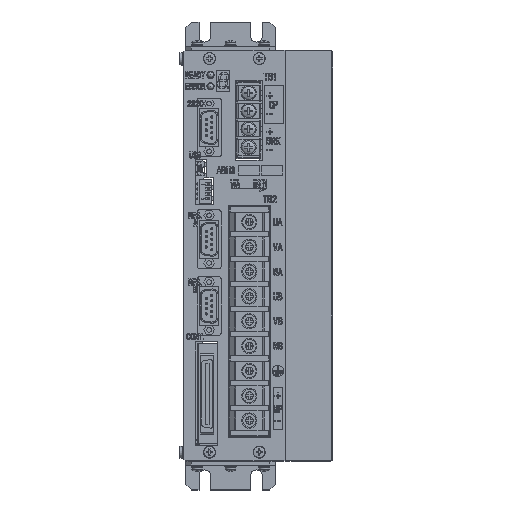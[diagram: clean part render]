
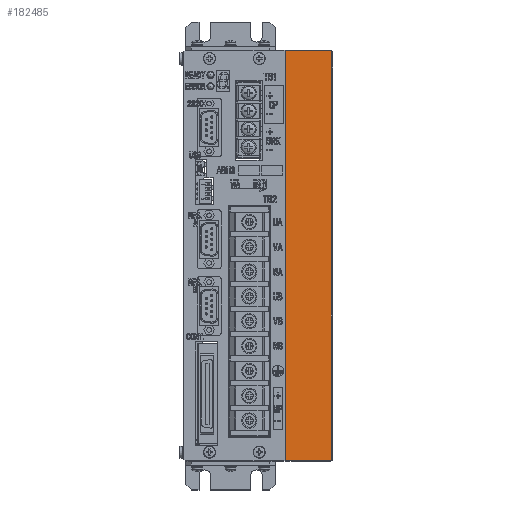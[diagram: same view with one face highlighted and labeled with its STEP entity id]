
A CAD part, top view. The second image highlights one B-rep face of the part: STEP entity #182485.
In plain terms, the highlighted planar face has unit normal (0.01, 0, 1).
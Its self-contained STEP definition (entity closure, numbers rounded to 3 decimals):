
#175241=CARTESIAN_POINT('',(62.209,-98.027,164.172));
#175242=VERTEX_POINT('',#175241);
#175250=CARTESIAN_POINT('',(61.951,-98.285,164.175));
#175251=VERTEX_POINT('',#175250);
#175252=CARTESIAN_POINT('',(62.209,-98.027,164.172));
#175253=DIRECTION('',(-0.707,-0.707,0.007));
#175254=VECTOR('',#175253,0.364);
#175255=LINE('',#175252,#175254);
#175256=EDGE_CURVE('',#175242,#175251,#175255,.T.);
#176558=CARTESIAN_POINT('',(61.951,116.715,164.175));
#176559=VERTEX_POINT('',#176558);
#176566=CARTESIAN_POINT('',(62.209,116.458,164.172));
#176567=VERTEX_POINT('',#176566);
#176568=CARTESIAN_POINT('',(61.951,116.715,164.175));
#176569=DIRECTION('',(0.707,-0.707,-0.007));
#176570=VECTOR('',#176569,0.364);
#176571=LINE('',#176568,#176570);
#176572=EDGE_CURVE('',#176559,#176567,#176571,.T.);
#179185=CARTESIAN_POINT('',(62.209,-98.027,164.172));
#179186=DIRECTION('',(0.,1.,0.));
#179187=VECTOR('',#179186,214.485);
#179188=LINE('',#179185,#179187);
#179189=EDGE_CURVE('',#175242,#176567,#179188,.T.);
#179225=CARTESIAN_POINT('',(37.951,116.715,164.415));
#179226=VERTEX_POINT('',#179225);
#179234=CARTESIAN_POINT('',(37.951,-98.285,164.415));
#179235=VERTEX_POINT('',#179234);
#179242=CARTESIAN_POINT('',(37.951,-98.285,164.415));
#179243=DIRECTION('',(0.,1.,0.));
#179244=VECTOR('',#179243,215.);
#179245=LINE('',#179242,#179244);
#179246=EDGE_CURVE('',#179235,#179226,#179245,.T.);
#182462=CARTESIAN_POINT('',(50.08,-98.285,164.294));
#182463=DIRECTION('',(-0.01,0.,-1.));
#182464=DIRECTION('',(1.,0.,-0.01));
#182465=AXIS2_PLACEMENT_3D('',#182462,#182463,#182464);
#182466=PLANE('',#182465);
#182467=ORIENTED_EDGE('',*,*,#176572,.F.);
#182468=CARTESIAN_POINT('',(61.951,116.715,164.175));
#182469=DIRECTION('',(-1.,0.,0.01));
#182470=VECTOR('',#182469,24.001);
#182471=LINE('',#182468,#182470);
#182472=EDGE_CURVE('',#176559,#179226,#182471,.T.);
#182473=ORIENTED_EDGE('',*,*,#182472,.T.);
#182474=ORIENTED_EDGE('',*,*,#179246,.F.);
#182475=CARTESIAN_POINT('',(61.951,-98.285,164.175));
#182476=DIRECTION('',(-1.,0.,0.01));
#182477=VECTOR('',#182476,24.001);
#182478=LINE('',#182475,#182477);
#182479=EDGE_CURVE('',#175251,#179235,#182478,.T.);
#182480=ORIENTED_EDGE('',*,*,#182479,.F.);
#182481=ORIENTED_EDGE('',*,*,#175256,.F.);
#182482=ORIENTED_EDGE('',*,*,#179189,.T.);
#182483=EDGE_LOOP('',(#182467,#182473,#182474,#182480,#182481,#182482));
#182484=FACE_BOUND('',#182483,.T.);
#182485=ADVANCED_FACE('',(#182484),#182466,.F.);
